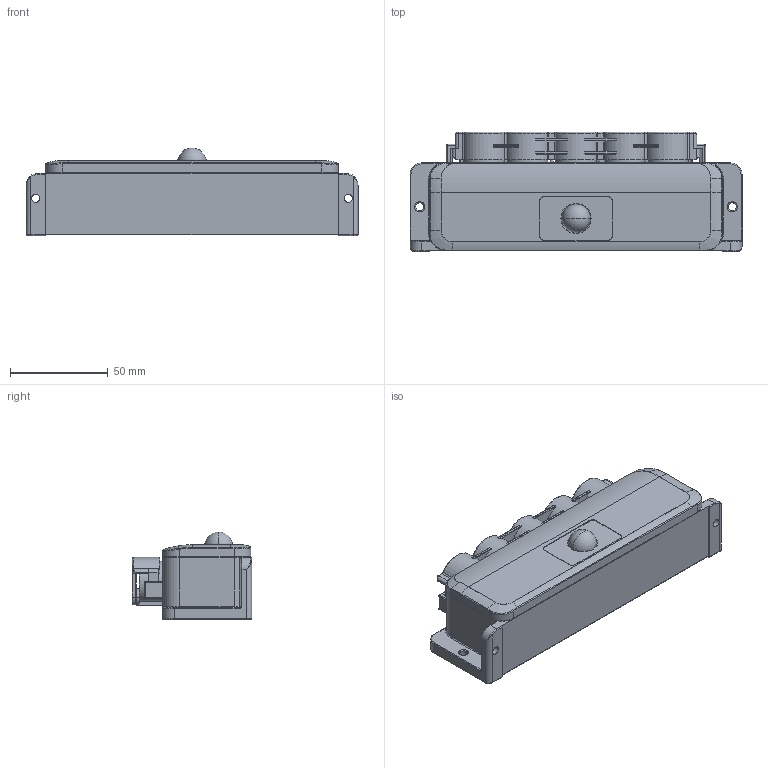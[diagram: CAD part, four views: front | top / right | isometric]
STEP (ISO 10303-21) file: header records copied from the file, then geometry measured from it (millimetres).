
FILE_DESCRIPTION((''),'2;1');
FILE_NAME('DINJIXIANQI','2018-05-02T',('user'),(''),'PRO/ENGINEER BY PARAMETRIC TECHNOLOGY CORPORATION, 2008090','PRO/ENGINEER BY PARAMETRIC TECHNOLOGY CORPORATION, 2008090','');
FILE_SCHEMA(('CONFIG_CONTROL_DESIGN'));
Length unit declared in the file: millimetre
Products named in the file (1): DINJIXIANQI
Bounding box: 170 x 61.2 x 45 mm (x, y, z)
Surface area: 85533.8 mm2 (no closed solid volume)
Topology: 0 solids, 10 shells, 1296 faces, 3635 edges, 2393 vertices
Faces by surface type: plane 663, cylinder 393, torus 83, bspline 79, cone 59, sphere 11, extrusion 8
Entity records: 50877 total; most frequent: CARTESIAN_POINT 17704, ORIENTED_EDGE 7230, DIRECTION 6616, EDGE_CURVE 3615, VERTEX_POINT 2393, AXIS2_PLACEMENT_3D 2295, VECTOR 2026, LINE 2018
